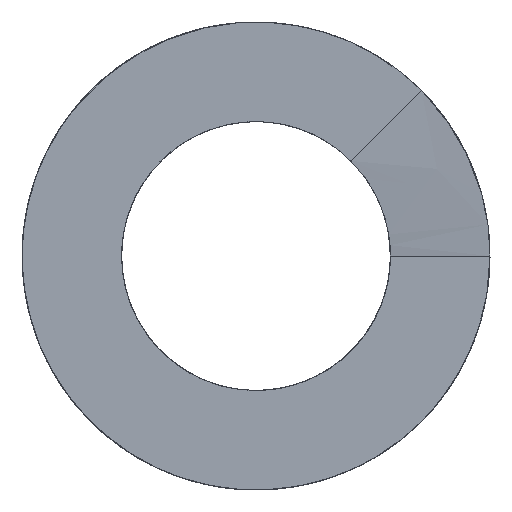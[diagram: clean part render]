
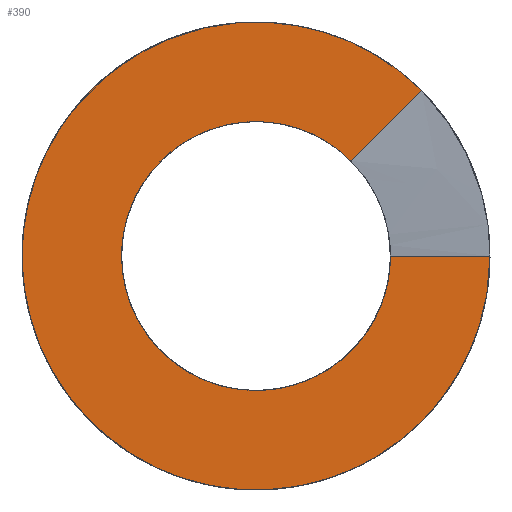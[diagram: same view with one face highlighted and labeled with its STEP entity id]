
A CAD part, front view. The second image highlights one B-rep face of the part: STEP entity #390.
In plain terms, the highlighted planar face has unit normal (0, -1, 0).
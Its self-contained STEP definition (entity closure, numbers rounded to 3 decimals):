
#36=LINE('',#2452,#44);
#44=VECTOR('',#461,10.);
#74=B_SPLINE_CURVE_WITH_KNOTS('',3,(#1862,#1863,#1864,#1865,#1866,#1867,
#1868,#1869,#1870,#1871,#1872,#1873,#1874,#1875,#1876,#1877,#1878,#1879,
#1880,#1881,#1882,#1883,#1884,#1885,#1886,#1887,#1888,#1889,#1890,#1891,
#1892,#1893,#1894,#1895,#1896,#1897,#1898,#1899,#1900,#1901,#1902,#1903),
 .UNSPECIFIED.,.F.,.F.,(4,2,2,2,2,2,2,2,2,2,2,2,2,2,2,2,2,2,2,2,4),(-4.988,
-4.706,-4.424,-4.248,-3.929,
-3.644,-3.392,-3.18,-3.02,
-2.949,-2.915,-2.88,-2.828,
-2.475,-2.121,-1.768,-1.414,
-1.061,-0.707,-0.354,0.),
 .UNSPECIFIED.);
#83=B_SPLINE_CURVE_WITH_KNOTS('',3,(#2346,#2347,#2348,#2349,#2350,#2351,
#2352,#2353,#2354,#2355,#2356,#2357,#2358,#2359,#2360,#2361,#2362,#2363,
#2364,#2365,#2366,#2367,#2368,#2369,#2370,#2371,#2372,#2373,#2374,#2375,
#2376,#2377,#2378,#2379,#2380,#2381,#2382,#2383,#2384,#2385,#2386,#2387),
 .UNSPECIFIED.,.F.,.F.,(4,2,2,2,2,2,2,2,2,2,2,2,2,2,2,2,2,2,2,2,4),(-8.681,
-8.169,-7.656,-7.041,-6.426,
-5.811,-5.195,-4.58,-3.965,
-3.704,-3.643,-3.588,-3.52,
-3.434,-3.189,-2.715,-2.304,
-1.853,-1.231,-0.615,0.),
 .UNSPECIFIED.);
#89=B_SPLINE_CURVE_WITH_KNOTS('',3,(#2446,#2447,#2448,#2449,#2450,#2451),
 .UNSPECIFIED.,.F.,.F.,(4,2,4),(-0.67,-0.335,0.),.UNSPECIFIED.);
#114=FACE_OUTER_BOUND('',#140,.T.);
#140=EDGE_LOOP('',(#335,#336,#337,#338));
#171=VERTEX_POINT('',#1589);
#178=VERTEX_POINT('',#1856);
#181=VERTEX_POINT('',#2004);
#186=VERTEX_POINT('',#2345);
#224=EDGE_CURVE('',#178,#171,#74,.T.);
#235=EDGE_CURVE('',#181,#186,#83,.T.);
#242=EDGE_CURVE('',#186,#178,#89,.T.);
#243=EDGE_CURVE('',#171,#181,#36,.T.);
#335=ORIENTED_EDGE('',*,*,#242,.F.);
#336=ORIENTED_EDGE('',*,*,#235,.F.);
#337=ORIENTED_EDGE('',*,*,#243,.F.);
#338=ORIENTED_EDGE('',*,*,#224,.F.);
#372=PLANE('',#429);
#390=ADVANCED_FACE('',(#114),#372,.F.);
#429=AXIS2_PLACEMENT_3D('',#2445,#459,#460);
#459=DIRECTION('center_axis',(0.,1.,0.));
#460=DIRECTION('ref_axis',(0.,0.,1.));
#461=DIRECTION('',(1.,0.,0.));
#1589=CARTESIAN_POINT('',(9.05,0.,0.));
#1856=CARTESIAN_POINT('',(6.399,0.,6.399));
#1862=CARTESIAN_POINT('Ctrl Pts',(6.399,0.,
6.399));
#1863=CARTESIAN_POINT('Ctrl Pts',(5.735,0.,
7.064));
#1864=CARTESIAN_POINT('Ctrl Pts',(4.971,0.,
7.621));
#1865=CARTESIAN_POINT('Ctrl Pts',(3.299,0.,
8.48));
#1866=CARTESIAN_POINT('Ctrl Pts',(2.401,0.,
8.776));
#1867=CARTESIAN_POINT('Ctrl Pts',(0.894,0.,
9.025));
#1868=CARTESIAN_POINT('Ctrl Pts',(0.307,0.,
9.064));
#1869=CARTESIAN_POINT('Ctrl Pts',(-1.342,0.,
9.013));
#1870=CARTESIAN_POINT('Ctrl Pts',(-2.39,0.,
8.793));
#1871=CARTESIAN_POINT('Ctrl Pts',(-4.258,0.,
8.042));
#1872=CARTESIAN_POINT('Ctrl Pts',(-5.078,0.,
7.551));
#1873=CARTESIAN_POINT('Ctrl Pts',(-6.451,0.,
6.403));
#1874=CARTESIAN_POINT('Ctrl Pts',(-7.017,0.,
5.777));
#1875=CARTESIAN_POINT('Ctrl Pts',(-7.885,0.,
4.498));
#1876=CARTESIAN_POINT('Ctrl Pts',(-8.212,0.,
3.868));
#1877=CARTESIAN_POINT('Ctrl Pts',(-8.651,0.,
2.709));
#1878=CARTESIAN_POINT('Ctrl Pts',(-8.796,0.,
2.196));
#1879=CARTESIAN_POINT('Ctrl Pts',(-8.938,0.,
1.438));
#1880=CARTESIAN_POINT('Ctrl Pts',(-8.973,0.,
1.202));
#1881=CARTESIAN_POINT('Ctrl Pts',(-9.01,0.,
0.855));
#1882=CARTESIAN_POINT('Ctrl Pts',(-9.02,0.,
0.744));
#1883=CARTESIAN_POINT('Ctrl Pts',(-9.036,0.,
0.515));
#1884=CARTESIAN_POINT('Ctrl Pts',(-9.042,0.,
0.397));
#1885=CARTESIAN_POINT('Ctrl Pts',(-9.051,0.,
0.107));
#1886=CARTESIAN_POINT('Ctrl Pts',(-9.051,0.,-0.065));
#1887=CARTESIAN_POINT('Ctrl Pts',(-9.016,0.,-1.416));
#1888=CARTESIAN_POINT('Ctrl Pts',(-8.755,0.,-2.576));
#1889=CARTESIAN_POINT('Ctrl Pts',(-7.804,0.,-4.732));
#1890=CARTESIAN_POINT('Ctrl Pts',(-7.122,0.,-5.707));
#1891=CARTESIAN_POINT('Ctrl Pts',(-5.423,0.,-7.341));
#1892=CARTESIAN_POINT('Ctrl Pts',(-4.422,0.,-7.984));
#1893=CARTESIAN_POINT('Ctrl Pts',(-2.23,0.,-8.85));
#1894=CARTESIAN_POINT('Ctrl Pts',(-1.06,0.,-9.065));
#1895=CARTESIAN_POINT('Ctrl Pts',(1.297,0.,-9.034));
#1896=CARTESIAN_POINT('Ctrl Pts',(2.461,0.,-8.788));
#1897=CARTESIAN_POINT('Ctrl Pts',(4.63,0.,-7.865));
#1898=CARTESIAN_POINT('Ctrl Pts',(5.613,0.,-7.196));
#1899=CARTESIAN_POINT('Ctrl Pts',(7.269,0.,-5.518));
#1900=CARTESIAN_POINT('Ctrl Pts',(7.925,0.,-4.526));
#1901=CARTESIAN_POINT('Ctrl Pts',(8.82,0.,-2.346));
#1902=CARTESIAN_POINT('Ctrl Pts',(9.05,0.,-1.178));
#1903=CARTESIAN_POINT('Ctrl Pts',(9.05,0.,0.));
#2004=CARTESIAN_POINT('',(15.75,0.,0.));
#2345=CARTESIAN_POINT('',(11.137,0.,11.137));
#2346=CARTESIAN_POINT('Ctrl Pts',(15.75,0.,0.));
#2347=CARTESIAN_POINT('Ctrl Pts',(15.75,0.,-1.708));
#2348=CARTESIAN_POINT('Ctrl Pts',(15.472,0.,-3.405));
#2349=CARTESIAN_POINT('Ctrl Pts',(14.382,0.,-6.643));
#2350=CARTESIAN_POINT('Ctrl Pts',(13.578,0.,-8.162));
#2351=CARTESIAN_POINT('Ctrl Pts',(11.305,0.,-11.156));
#2352=CARTESIAN_POINT('Ctrl Pts',(9.758,0.,-12.532));
#2353=CARTESIAN_POINT('Ctrl Pts',(6.223,0.,-14.613));
#2354=CARTESIAN_POINT('Ctrl Pts',(4.27,0.,-15.298));
#2355=CARTESIAN_POINT('Ctrl Pts',(0.209,0.,-15.882));
#2356=CARTESIAN_POINT('Ctrl Pts',(-1.858,0.,-15.774));
#2357=CARTESIAN_POINT('Ctrl Pts',(-5.836,0.,-14.772));
#2358=CARTESIAN_POINT('Ctrl Pts',(-7.708,0.,-13.887));
#2359=CARTESIAN_POINT('Ctrl Pts',(-11.007,0.,-11.451));
#2360=CARTESIAN_POINT('Ctrl Pts',(-12.403,0.,-9.922));
#2361=CARTESIAN_POINT('Ctrl Pts',(-14.53,0.,-6.414));
#2362=CARTESIAN_POINT('Ctrl Pts',(-15.241,0.,-4.47));
#2363=CARTESIAN_POINT('Ctrl Pts',(-15.694,0.,-1.584));
#2364=CARTESIAN_POINT('Ctrl Pts',(-15.758,0.,
-0.715));
#2365=CARTESIAN_POINT('Ctrl Pts',(-15.747,0.,
0.359));
#2366=CARTESIAN_POINT('Ctrl Pts',(-15.741,0.,
0.563));
#2367=CARTESIAN_POINT('Ctrl Pts',(-15.723,0.,
0.947));
#2368=CARTESIAN_POINT('Ctrl Pts',(-15.711,0.,
1.128));
#2369=CARTESIAN_POINT('Ctrl Pts',(-15.677,0.,
1.536));
#2370=CARTESIAN_POINT('Ctrl Pts',(-15.653,0.,
1.762));
#2371=CARTESIAN_POINT('Ctrl Pts',(-15.588,0.,
2.273));
#2372=CARTESIAN_POINT('Ctrl Pts',(-15.544,0.,
2.557));
#2373=CARTESIAN_POINT('Ctrl Pts',(-15.345,0.,
3.642));
#2374=CARTESIAN_POINT('Ctrl Pts',(-15.136,0.,
4.431));
#2375=CARTESIAN_POINT('Ctrl Pts',(-14.345,0.,
6.692));
#2376=CARTESIAN_POINT('Ctrl Pts',(-13.602,0.,
8.096));
#2377=CARTESIAN_POINT('Ctrl Pts',(-11.848,0.,
10.468));
#2378=CARTESIAN_POINT('Ctrl Pts',(-10.892,0.,
11.459));
#2379=CARTESIAN_POINT('Ctrl Pts',(-8.645,0.,
13.251));
#2380=CARTESIAN_POINT('Ctrl Pts',(-7.341,0.,
14.015));
#2381=CARTESIAN_POINT('Ctrl Pts',(-4.028,0.,
15.367));
#2382=CARTESIAN_POINT('Ctrl Pts',(-1.971,0.,
15.763));
#2383=CARTESIAN_POINT('Ctrl Pts',(2.154,0.,
15.736));
#2384=CARTESIAN_POINT('Ctrl Pts',(4.183,0.,
15.322));
#2385=CARTESIAN_POINT('Ctrl Pts',(7.967,0.,
13.74));
#2386=CARTESIAN_POINT('Ctrl Pts',(9.687,0.,
12.587));
#2387=CARTESIAN_POINT('Ctrl Pts',(11.137,0.,
11.137));
#2445=CARTESIAN_POINT('Origin',(0.,0.,0.));
#2446=CARTESIAN_POINT('Ctrl Pts',(11.137,0.,
11.137));
#2447=CARTESIAN_POINT('Ctrl Pts',(10.347,0.,
10.347));
#2448=CARTESIAN_POINT('Ctrl Pts',(9.558,0.,
9.558));
#2449=CARTESIAN_POINT('Ctrl Pts',(7.979,0.,
7.979));
#2450=CARTESIAN_POINT('Ctrl Pts',(7.189,0.,
7.189));
#2451=CARTESIAN_POINT('Ctrl Pts',(6.399,0.,
6.399));
#2452=CARTESIAN_POINT('',(6.2,0.,0.));
